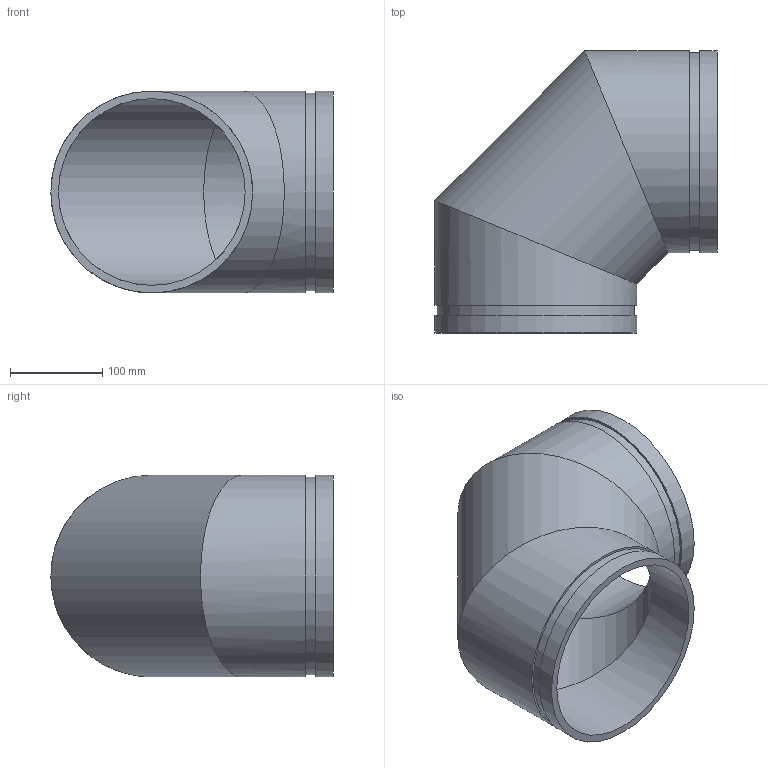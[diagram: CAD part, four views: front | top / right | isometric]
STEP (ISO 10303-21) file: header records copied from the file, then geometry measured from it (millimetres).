
FILE_DESCRIPTION(/* description */ ('VIC 90 DEG ELBOW FABRICATED No 10 SWS (OGS)','CAx-IF Rec.Pracs.---Representation and Presentation of Product Manufacturing Information (PMI)---4.0---2014-10-13'),/* implementation_level */ '2;1');
FILE_NAME(/* name */ 'C:\Users\kkamble\AppData\Roaming\Autodesk\ApplicationPlugins\Back Up\Victaulic_IPS_Elbow 90 Deg_No 10 SWS (OGS)\Victaulic_IPS_Elbow 90 Deg_No 10 SWS (OGS)_8 (200).stp',/* time_stamp */ '2020-09-16T22:17:56+06:00',/* author */ ('cgray'),/* organization */ ('Victaulic'),/* preprocessor_version */ 'ST-DEVELOPER v17.2',/* originating_system */ 'Autodesk Inventor 2019',/* authorisation */ '');
FILE_SCHEMA (('AP242_MANAGED_MODEL_BASED_3D_ENGINEERING_MIM_LF { 1 0 10303 442 1 1 4 }'));
Length unit declared in the file: inch
Products named in the file (1): 10 SWS-08.0
Bounding box: 306.39 x 306.39 x 219.07 mm (x, y, z)
Volume: 1785573.2 mm3; surface area: 462167.5 mm2
Topology: 1 solids, 1 shells, 16 faces, 38 edges, 28 vertices
Faces by surface type: cylinder 10, plane 6
Full cylindrical faces by diameter (mm): 202.717 x3, 214.401 x2, 219.075 x5
Entity records: 646 total; most frequent: DIRECTION 126, CARTESIAN_POINT 100, ORIENTED_EDGE 76, AXIS2_PLACEMENT_3D 58, EDGE_CURVE 38, VERTEX_POINT 28, EDGE_LOOP 22, STYLED_ITEM 18
